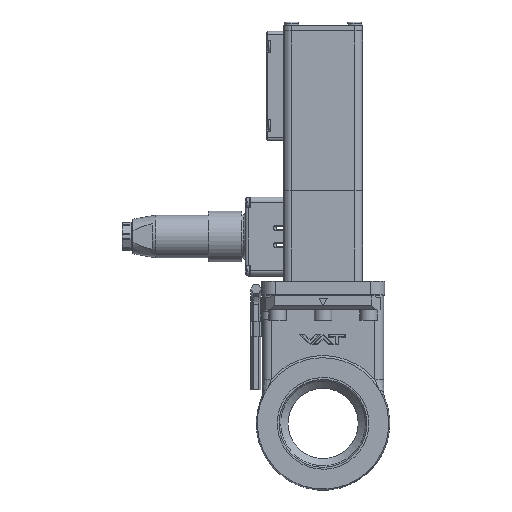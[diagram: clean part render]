
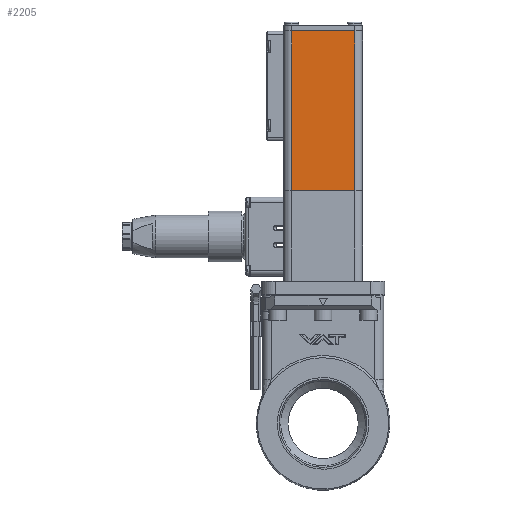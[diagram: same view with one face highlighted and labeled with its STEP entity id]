
A CAD part, top view. The second image highlights one B-rep face of the part: STEP entity #2205.
In plain terms, the highlighted planar face has unit normal (0, 0, 1).
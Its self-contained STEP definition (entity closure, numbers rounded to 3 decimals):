
#2205 = ADVANCED_FACE( '', ( #4955 ), #4956, .T. );
#4955 = FACE_OUTER_BOUND( '', #9463, .T. );
#4956 = PLANE( '', #9464 );
#9463 = EDGE_LOOP( '', ( #16074, #16075, #16076, #16077 ) );
#9464 = AXIS2_PLACEMENT_3D( '', #16078, #16079, #16080 );
#16074 = ORIENTED_EDGE( '', *, *, #24756, .T. );
#16075 = ORIENTED_EDGE( '', *, *, #24757, .F. );
#16076 = ORIENTED_EDGE( '', *, *, #24758, .F. );
#16077 = ORIENTED_EDGE( '', *, *, #24759, .T. );
#16078 = CARTESIAN_POINT( '', ( 91.1, 18., 22.5 ) );
#16079 = DIRECTION( '', ( 0., 0., 1. ) );
#16080 = DIRECTION( '', ( 1., 0., 0. ) );
#24756 = EDGE_CURVE( '', #29383, #29384, #29385, .T. );
#24757 = EDGE_CURVE( '', #29386, #29384, #29387, .T. );
#24758 = EDGE_CURVE( '', #29388, #29386, #29389, .T. );
#24759 = EDGE_CURVE( '', #29388, #29383, #29390, .T. );
#29383 = VERTEX_POINT( '', #36561 );
#29384 = VERTEX_POINT( '', #36562 );
#29385 = LINE( '', #36563, #36564 );
#29386 = VERTEX_POINT( '', #36565 );
#29387 = LINE( '', #36566, #36567 );
#29388 = VERTEX_POINT( '', #36568 );
#29389 = LINE( '', #36569, #36570 );
#29390 = LINE( '', #36571, #36572 );
#36561 = CARTESIAN_POINT( '', ( 0., 18., 22.5 ) );
#36562 = CARTESIAN_POINT( '', ( 0., -18., 22.5 ) );
#36563 = CARTESIAN_POINT( '', ( 0., 18., 22.5 ) );
#36564 = VECTOR( '', #43694, 1000. );
#36565 = CARTESIAN_POINT( '', ( 91.1, -18., 22.5 ) );
#36566 = CARTESIAN_POINT( '', ( 91.1, -18., 22.5 ) );
#36567 = VECTOR( '', #43695, 1000. );
#36568 = CARTESIAN_POINT( '', ( 91.1, 18., 22.5 ) );
#36569 = CARTESIAN_POINT( '', ( 91.1, 18., 22.5 ) );
#36570 = VECTOR( '', #43696, 1000. );
#36571 = CARTESIAN_POINT( '', ( 91.1, 18., 22.5 ) );
#36572 = VECTOR( '', #43697, 1000. );
#43694 = DIRECTION( '', ( 0., -1., 0. ) );
#43695 = DIRECTION( '', ( -1., 0., 0. ) );
#43696 = DIRECTION( '', ( 0., -1., 0. ) );
#43697 = DIRECTION( '', ( -1., 0., 0. ) );
